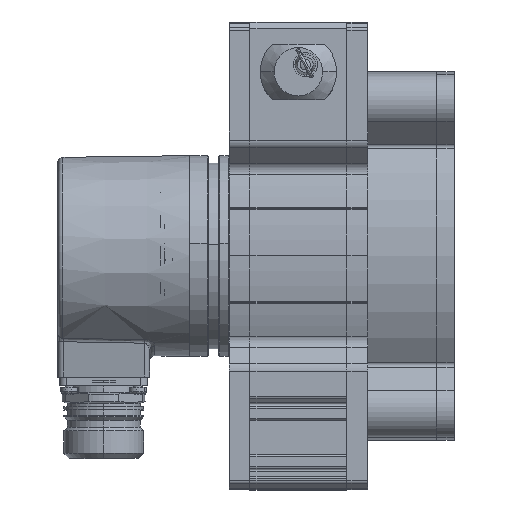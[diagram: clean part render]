
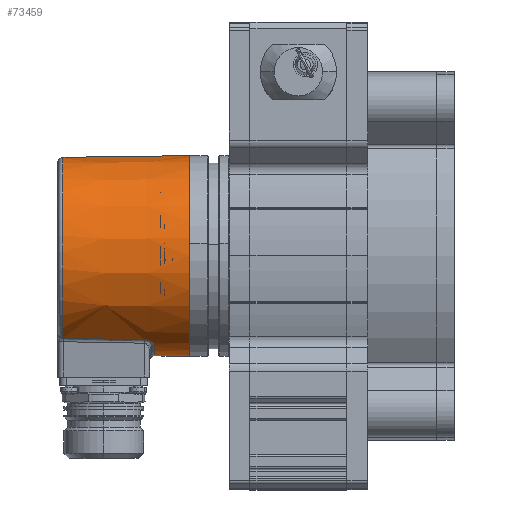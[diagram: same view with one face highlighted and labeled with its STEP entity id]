
A CAD part, top view. The second image highlights one B-rep face of the part: STEP entity #73459.
In plain terms, the highlighted conical face has half-angle 0.75 degrees and reference radius 29 mm.
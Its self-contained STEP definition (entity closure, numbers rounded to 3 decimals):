
#6064 = CARTESIAN_POINT ( 'NONE',  ( -19.913, 14.262, -3.053 ) ) ;
#6065 = CARTESIAN_POINT ( 'NONE',  ( -22.76, 14.311, -3.045 ) ) ;
#6066 = CARTESIAN_POINT ( 'NONE',  ( -25.607, 14.361, -3.038 ) ) ;
#6067 = CARTESIAN_POINT ( 'NONE',  ( -28.455, 14.41, -3.031 ) ) ;
#6068 = CARTESIAN_POINT ( 'NONE',  ( -32.454, 14.479, -3.02 ) ) ;
#6069 = CARTESIAN_POINT ( 'NONE',  ( -36.453, 14.548, -3.01 ) ) ;
#6070 = CARTESIAN_POINT ( 'NONE',  ( -40.453, 14.618, -2.999 ) ) ;
#6071 = CARTESIAN_POINT ( 'NONE',  ( -41.453, 14.635, -2.997 ) ) ;
#6072 = CARTESIAN_POINT ( 'NONE',  ( -42.452, 14.653, -2.994 ) ) ;
#6073 = CARTESIAN_POINT ( 'NONE',  ( -43.452, 14.67, -2.992 ) ) ;
#6076 = CARTESIAN_POINT ( 'NONE',  ( -19.913, 14.262, -3.053 ) ) ;
#6077 = B_SPLINE_CURVE_WITH_KNOTS ( 'NONE', 3,
 ( #6073, #6072, #6071, #6070, #6069, #6068, #6067, #6066, #6065, #6064 ),
 .UNSPECIFIED., .F., .F.,
 ( 4, 3, 3, 4 ),
 ( 0., 0.003, 0.015, 0.024 ),
 .UNSPECIFIED. ) ;
#6078 = DIRECTION ( 'NONE',  ( 0., -1., 0. ) ) ;
#6079 = DIRECTION ( 'NONE',  ( 1., 0., 0. ) ) ;
#6080 = CARTESIAN_POINT ( 'NONE',  ( -43.452, 38.482, -18.691 ) ) ;
#6081 = AXIS2_PLACEMENT_3D ( 'NONE', #6080, #6079, #6078 ) ;
#6082 = CIRCLE ( 'NONE', #6081, 28.522 ) ;
#6083 = CARTESIAN_POINT ( 'NONE',  ( -43.452, 14.67, -2.992 ) ) ;
#6084 = DIRECTION ( 'NONE',  ( 1., 0.013, 0. ) ) ;
#6085 = VECTOR ( 'NONE', #6084, 1000. ) ;
#6086 = CARTESIAN_POINT ( 'NONE',  ( -6.933, 67.482, -18.691 ) ) ;
#6113 = LINE ( 'NONE', #6086, #6085 ) ;
#6114 = CARTESIAN_POINT ( 'NONE',  ( -6.933, 67.482, -18.691 ) ) ;
#6115 = DIRECTION ( 'NONE',  ( 0., -1., 0. ) ) ;
#6116 = DIRECTION ( 'NONE',  ( -1., 0., 0. ) ) ;
#6117 = CARTESIAN_POINT ( 'NONE',  ( -6.933, 38.482, -18.691 ) ) ;
#6118 = AXIS2_PLACEMENT_3D ( 'NONE', #6117, #6116, #6115 ) ;
#6119 = CIRCLE ( 'NONE', #6118, 29. ) ;
#6120 = CARTESIAN_POINT ( 'NONE',  ( -6.933, 9.482, -18.691 ) ) ;
#6121 = DIRECTION ( 'NONE',  ( 1., -0.013, 0. ) ) ;
#6122 = VECTOR ( 'NONE', #6121, 1000. ) ;
#6123 = CARTESIAN_POINT ( 'NONE',  ( -6.933, 9.482, -18.691 ) ) ;
#6124 = LINE ( 'NONE', #6123, #6122 ) ;
#6184 = CARTESIAN_POINT ( 'NONE',  ( -16.999, 12.808, -5.491 ) ) ;
#6185 = CARTESIAN_POINT ( 'NONE',  ( -16.931, 12.612, -5.877 ) ) ;
#6191 = B_SPLINE_CURVE_WITH_KNOTS ( 'NONE', 3,
 ( #6241, #6259, #6185, #6184, #6269, #6268, #6265, #6264, #6332, #6331, #6330, #6392, #6391, #6390, #6267, #6266, #6222, #6221 ),
 .UNSPECIFIED., .F., .F.,
 ( 4, 2, 2, 2, 2, 2, 2, 2, 4 ),
 ( 0., 0.001, 0.001, 0.002, 0.003, 0.003, 0.004, 0.005, 0.005 ),
 .UNSPECIFIED. ) ;
#6221 = CARTESIAN_POINT ( 'NONE',  ( -19.913, 14.262, -3.053 ) ) ;
#6222 = CARTESIAN_POINT ( 'NONE',  ( -19.691, 14.258, -3.053 ) ) ;
#6241 = CARTESIAN_POINT ( 'NONE',  ( -16.913, 12.421, -6.272 ) ) ;
#6259 = CARTESIAN_POINT ( 'NONE',  ( -16.913, 12.516, -6.073 ) ) ;
#6264 = CARTESIAN_POINT ( 'NONE',  ( -17.463, 13.395, -4.42 ) ) ;
#6265 = CARTESIAN_POINT ( 'NONE',  ( -17.267, 13.202, -4.758 ) ) ;
#6266 = CARTESIAN_POINT ( 'NONE',  ( -19.476, 14.238, -3.08 ) ) ;
#6267 = CARTESIAN_POINT ( 'NONE',  ( -19.055, 14.165, -3.183 ) ) ;
#6268 = CARTESIAN_POINT ( 'NONE',  ( -17.185, 13.105, -4.934 ) ) ;
#6269 = CARTESIAN_POINT ( 'NONE',  ( -17.051, 12.908, -5.3 ) ) ;
#6330 = CARTESIAN_POINT ( 'NONE',  ( -17.981, 13.758, -3.813 ) ) ;
#6331 = CARTESIAN_POINT ( 'NONE',  ( -17.837, 13.672, -3.953 ) ) ;
#6332 = CARTESIAN_POINT ( 'NONE',  ( -17.578, 13.49, -4.257 ) ) ;
#6390 = CARTESIAN_POINT ( 'NONE',  ( -18.852, 14.114, -3.258 ) ) ;
#6391 = CARTESIAN_POINT ( 'NONE',  ( -18.476, 13.99, -3.446 ) ) ;
#6392 = CARTESIAN_POINT ( 'NONE',  ( -18.299, 13.917, -3.56 ) ) ;
#6417 = FACE_OUTER_BOUND ( 'NONE', #73460, .T. ) ;
#6433 = DIRECTION ( 'NONE',  ( 0., 1., 0. ) ) ;
#6434 = DIRECTION ( 'NONE',  ( 1., 0., 0. ) ) ;
#6435 = AXIS2_PLACEMENT_3D ( 'NONE', #6527, #6434, #6433 ) ;
#6527 = CARTESIAN_POINT ( 'NONE',  ( -6.933, 38.482, -18.691 ) ) ;
#6529 = CONICAL_SURFACE ( 'NONE', #6435, 29., 0.013 ) ;
#68507 = EDGE_CURVE ( 'NONE', #68815, #68665, #75146, .T. ) ;
#68665 = VERTEX_POINT ( 'NONE', #84214 ) ;
#68815 = VERTEX_POINT ( 'NONE', #87302 ) ;
#69266 = VERTEX_POINT ( 'NONE', #98400 ) ;
#73380 = ORIENTED_EDGE ( 'NONE', *, *, #68507, .T. ) ;
#73381 = ORIENTED_EDGE ( 'NONE', *, *, #73382, .T. ) ;
#73382 = EDGE_CURVE ( 'NONE', #68665, #73383, #6124, .T. ) ;
#73383 = VERTEX_POINT ( 'NONE', #6120 ) ;
#73384 = ORIENTED_EDGE ( 'NONE', *, *, #73385, .T. ) ;
#73385 = EDGE_CURVE ( 'NONE', #73383, #73386, #6119, .T. ) ;
#73386 = VERTEX_POINT ( 'NONE', #6114 ) ;
#73387 = ORIENTED_EDGE ( 'NONE', *, *, #73388, .F. ) ;
#73388 = EDGE_CURVE ( 'NONE', #69266, #73386, #6113, .T. ) ;
#73389 = ORIENTED_EDGE ( 'NONE', *, *, #73390, .T. ) ;
#73390 = EDGE_CURVE ( 'NONE', #69266, #73391, #6082, .T. ) ;
#73391 = VERTEX_POINT ( 'NONE', #6083 ) ;
#73392 = ORIENTED_EDGE ( 'NONE', *, *, #73393, .T. ) ;
#73393 = EDGE_CURVE ( 'NONE', #73391, #73394, #6077, .T. ) ;
#73394 = VERTEX_POINT ( 'NONE', #6076 ) ;
#73408 = ORIENTED_EDGE ( 'NONE', *, *, #73409, .F. ) ;
#73409 = EDGE_CURVE ( 'NONE', #68815, #73394, #6191, .T. ) ;
#73459 = ADVANCED_FACE ( 'NONE', ( #6417 ), #6529, .T. ) ;
#73460 = EDGE_LOOP ( 'NONE', ( #73380, #73381, #73384, #73387, #73389, #73392, #73408 ) ) ;
#75139 = DIRECTION ( 'NONE',  ( 0., -1., 0. ) ) ;
#75141 = DIRECTION ( 'NONE',  ( 1., 0., 0. ) ) ;
#75142 = CARTESIAN_POINT ( 'NONE',  ( -16.913, 38.482, -18.691 ) ) ;
#75144 = AXIS2_PLACEMENT_3D ( 'NONE', #75142, #75141, #75139 ) ;
#75146 = CIRCLE ( 'NONE', #75144, 28.869 ) ;
#84214 = CARTESIAN_POINT ( 'NONE',  ( -16.913, 9.613, -18.691 ) ) ;
#87302 = CARTESIAN_POINT ( 'NONE',  ( -16.913, 12.421, -6.272 ) ) ;
#98400 = CARTESIAN_POINT ( 'NONE',  ( -43.452, 67.004, -18.691 ) ) ;
